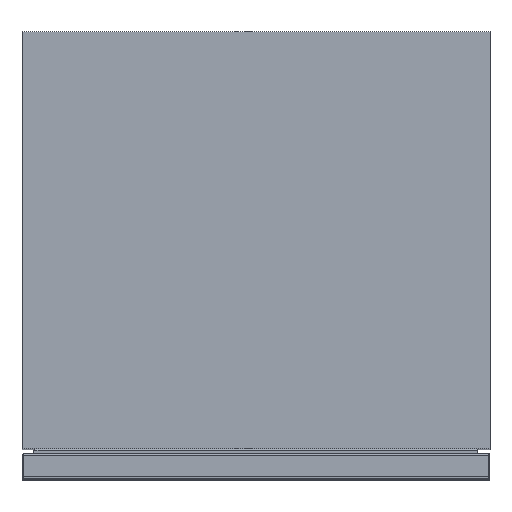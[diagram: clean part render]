
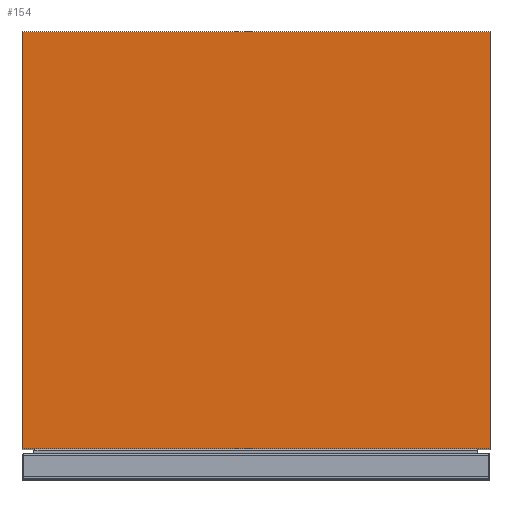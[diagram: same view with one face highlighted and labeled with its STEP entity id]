
A CAD part, top view. The second image highlights one B-rep face of the part: STEP entity #154.
In plain terms, the highlighted planar face has unit normal (0, 0, 1).
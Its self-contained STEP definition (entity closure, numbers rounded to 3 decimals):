
#154=ADVANCED_FACE('',(#274),#1796,.T.);
#274=FACE_OUTER_BOUND('',#398,.T.);
#398=EDGE_LOOP('',(#681,#682,#683,#684));
#681=ORIENTED_EDGE('',*,*,#1129,.F.);
#682=ORIENTED_EDGE('',*,*,#1113,.F.);
#683=ORIENTED_EDGE('',*,*,#1130,.F.);
#684=ORIENTED_EDGE('',*,*,#1127,.F.);
#1113=EDGE_CURVE('',#1621,#1622,#1373,.T.);
#1127=EDGE_CURVE('',#1631,#1632,#1387,.T.);
#1129=EDGE_CURVE('',#1622,#1631,#1389,.T.);
#1130=EDGE_CURVE('',#1632,#1621,#1390,.T.);
#1373=B_SPLINE_CURVE_WITH_KNOTS('',1,(#2539,#2540),.UNSPECIFIED.,.F.,.F.,
(2,2),(-597.,0.),.UNSPECIFIED.);
#1387=B_SPLINE_CURVE_WITH_KNOTS('',1,(#2567,#2568),.UNSPECIFIED.,.F.,.F.,
(2,2),(0.,597.),.UNSPECIFIED.);
#1389=B_SPLINE_CURVE_WITH_KNOTS('',1,(#2571,#2572),.UNSPECIFIED.,.F.,.F.,
(2,2),(0.,532.),.UNSPECIFIED.);
#1390=B_SPLINE_CURVE_WITH_KNOTS('',1,(#2573,#2574),.UNSPECIFIED.,.F.,.F.,
(2,2),(-532.,0.),.UNSPECIFIED.);
#1621=VERTEX_POINT('',#2527);
#1622=VERTEX_POINT('',#2528);
#1631=VERTEX_POINT('',#2537);
#1632=VERTEX_POINT('',#2538);
#1796=PLANE('',#1914);
#1914=AXIS2_PLACEMENT_3D('',#2524,#2025,$);
#2025=DIRECTION('',(0.,0.,1.));
#2524=CARTESIAN_POINT('',(358.26,624.26,436.));
#2527=CARTESIAN_POINT('',(-298.5,571.,436.));
#2528=CARTESIAN_POINT('',(298.5,571.,436.));
#2537=CARTESIAN_POINT('',(298.5,39.,436.));
#2538=CARTESIAN_POINT('',(-298.5,39.,436.));
#2539=CARTESIAN_POINT('',(-298.5,571.,436.));
#2540=CARTESIAN_POINT('',(298.5,571.,436.));
#2567=CARTESIAN_POINT('',(298.5,39.,436.));
#2568=CARTESIAN_POINT('',(-298.5,39.,436.));
#2571=CARTESIAN_POINT('',(298.5,571.,436.));
#2572=CARTESIAN_POINT('',(298.5,39.,436.));
#2573=CARTESIAN_POINT('',(-298.5,39.,436.));
#2574=CARTESIAN_POINT('',(-298.5,571.,436.));
